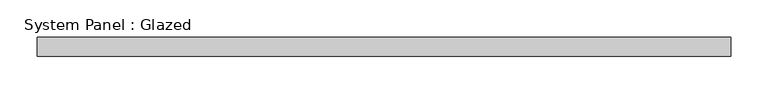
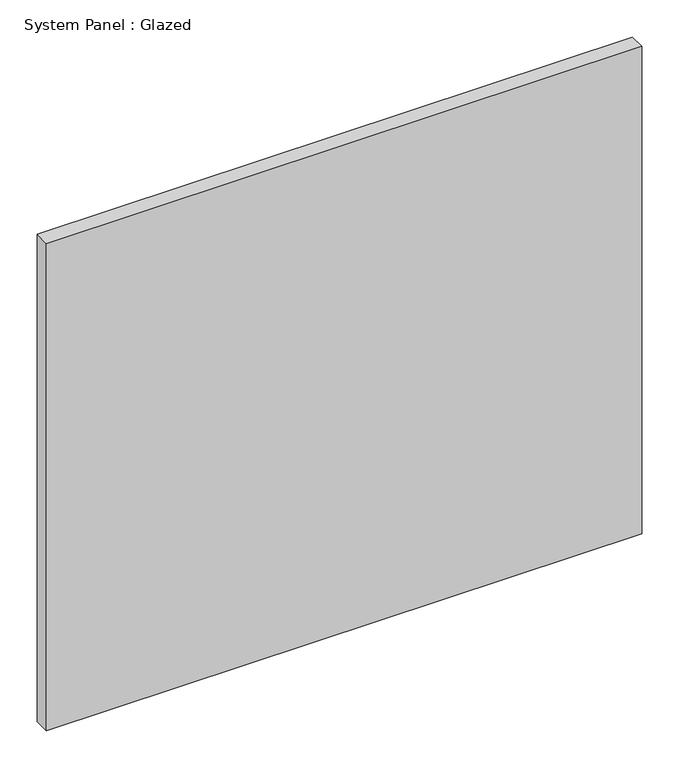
"""IFC4 building model written with IfcOpenShell, lengths in millimetres: plate geometry, System Panel : Glazed."""

from ifc_helpers import new_model, si_unit, origin, origin_with_axes, place, context, project, spatial, polyline, outline, extrude, source, transform, mapped, element, save


def system_panel_glazed_2a5f2a92(model_context):
    return source(origin(), model_context, "Body", "SweptSolid", [
        extrude(outline(polyline([(463.55, -44.45), (-463.55, -44.45), (-463.55, -19.05), (463.55, -19.05), (463.55, -44.45)])), origin_with_axes(), (0.0, 0.0, 1.0), 802.4190025),
    ])


if __name__ == "__main__":
    model = new_model("IFC4")
    model_context = context("Model", 3, world=origin())
    ifc_project = project(units=[si_unit("LENGTHUNIT", "METRE", prefix="MILLI")], contexts=[model_context])
    site = spatial("IfcSite", under=ifc_project)
    building = spatial("IfcBuilding", under=site)
    placement = place(None, origin())
    system_panel_glazed_shape = system_panel_glazed_2a5f2a92(model_context)
    element("IfcPlate", 1, ObjectType="System Panel : Glazed", at=placement, inside=building, context=model_context, shape_type="MappedRepresentation", body=[
        mapped(system_panel_glazed_shape, transform((0.0, 0.0, 0.0), x_axis=(1.0, 0.0, 0.0), y_axis=(0.0, 1.0, 0.0), z_axis=(0.0, 0.0, 1.0))),
    ])
    save(model, "model.ifc")
